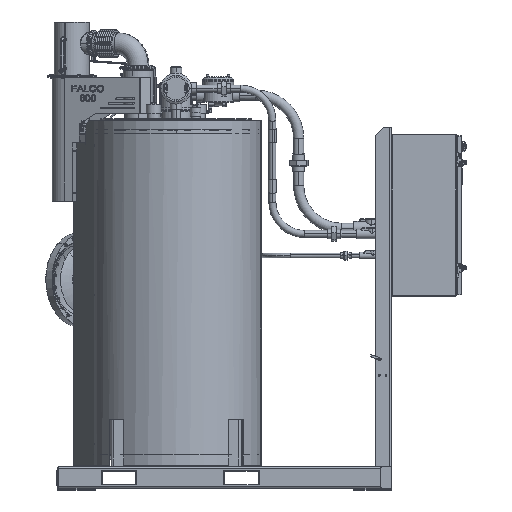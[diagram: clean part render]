
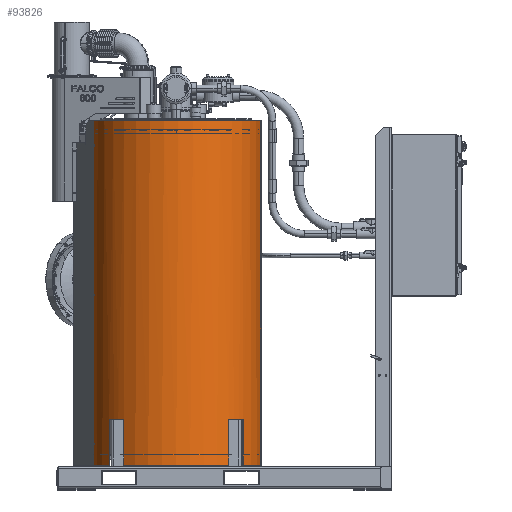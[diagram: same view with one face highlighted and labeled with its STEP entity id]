
A CAD part, top view. The second image highlights one B-rep face of the part: STEP entity #93826.
In plain terms, the highlighted cylindrical face has radius 401.625 mm (diameter 803.25 mm), a partial arc.
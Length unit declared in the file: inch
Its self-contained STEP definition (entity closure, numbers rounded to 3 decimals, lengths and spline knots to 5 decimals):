
#2855 = LINE ( 'NONE', #2858, #38207 ) ;
#2858 = CARTESIAN_POINT ( 'NONE',  ( 15.812, 32.04, 0. ) ) ;
#2869 = DIRECTION ( 'NONE',  ( 0., -1., 0. ) ) ;
#2912 = CARTESIAN_POINT ( 'NONE',  ( 0., -31.96, 0. ) ) ;
#2914 = DIRECTION ( 'NONE',  ( 0., 1., 0. ) ) ;
#2916 = DIRECTION ( 'NONE',  ( -1., 0., 0. ) ) ;
#5569 = AXIS2_PLACEMENT_3D ( 'NONE', #15086, #15074, #15088 ) ;
#15074 = DIRECTION ( 'NONE',  ( 0., -1., 0. ) ) ;
#15076 = CYLINDRICAL_SURFACE ( 'NONE', #5569, 15.812 ) ;
#15078 = FACE_OUTER_BOUND ( 'NONE', #21920, .T. ) ;
#15086 = CARTESIAN_POINT ( 'NONE',  ( 0., 32.04, 0. ) ) ;
#15088 = DIRECTION ( 'NONE',  ( 1., 0., 0. ) ) ;
#20967 = VERTEX_POINT ( 'NONE', #96759 ) ;
#20968 = VERTEX_POINT ( 'NONE', #96756 ) ;
#21128 = VERTEX_POINT ( 'NONE', #96471 ) ;
#21463 = VERTEX_POINT ( 'NONE', #95388 ) ;
#21464 = VERTEX_POINT ( 'NONE', #95386 ) ;
#21516 = VERTEX_POINT ( 'NONE', #95362 ) ;
#21571 = VERTEX_POINT ( 'NONE', #95611 ) ;
#21572 = VERTEX_POINT ( 'NONE', #95627 ) ;
#21575 = VERTEX_POINT ( 'NONE', #95619 ) ;
#21578 = VERTEX_POINT ( 'NONE', #95640 ) ;
#21799 = VERTEX_POINT ( 'NONE', #97936 ) ;
#21809 = VERTEX_POINT ( 'NONE', #97255 ) ;
#21920 = EDGE_LOOP ( 'NONE', ( #57946, #57945, #57944, #57943, #57941, #57940, #57931, #57939, #57938, #57937, #57934, #57935 ) ) ;
#38126 = CIRCLE ( 'NONE', #38195, 15.812 ) ;
#38195 = AXIS2_PLACEMENT_3D ( 'NONE', #2912, #2914, #2916 ) ;
#38207 = VECTOR ( 'NONE', #2869, 39.37008 ) ;
#38243 = CIRCLE ( 'NONE', #38254, 15.812 ) ;
#38252 = VECTOR ( 'NONE', #71309, 39.37008 ) ;
#38254 = AXIS2_PLACEMENT_3D ( 'NONE', #71302, #71304, #71306 ) ;
#38263 = CIRCLE ( 'NONE', #38264, 15.812 ) ;
#38264 = AXIS2_PLACEMENT_3D ( 'NONE', #71398, #71400, #71402 ) ;
#38277 = VECTOR ( 'NONE', #71523, 39.37008 ) ;
#38279 = CIRCLE ( 'NONE', #38281, 15.812 ) ;
#38281 = AXIS2_PLACEMENT_3D ( 'NONE', #71533, #71535, #71537 ) ;
#38283 = AXIS2_PLACEMENT_3D ( 'NONE', #71571, #71573, #71575 ) ;
#38285 = AXIS2_PLACEMENT_3D ( 'NONE', #71552, #71554, #71555 ) ;
#38287 = CIRCLE ( 'NONE', #38285, 15.812 ) ;
#38289 = VECTOR ( 'NONE', #71541, 39.37008 ) ;
#38292 = VECTOR ( 'NONE', #71577, 39.37008 ) ;
#38294 = CIRCLE ( 'NONE', #38283, 15.812 ) ;
#38543 = VECTOR ( 'NONE', #83906, 39.37008 ) ;
#57931 = ORIENTED_EDGE ( 'NONE', *, *, #96791, .T. ) ;
#57934 = ORIENTED_EDGE ( 'NONE', *, *, #96805, .T. ) ;
#57935 = ORIENTED_EDGE ( 'NONE', *, *, #96802, .T. ) ;
#57937 = ORIENTED_EDGE ( 'NONE', *, *, #96794, .T. ) ;
#57938 = ORIENTED_EDGE ( 'NONE', *, *, #96783, .T. ) ;
#57939 = ORIENTED_EDGE ( 'NONE', *, *, #96787, .T. ) ;
#57940 = ORIENTED_EDGE ( 'NONE', *, *, #96732, .T. ) ;
#57941 = ORIENTED_EDGE ( 'NONE', *, *, #96120, .F. ) ;
#57943 = ORIENTED_EDGE ( 'NONE', *, *, #96968, .T. ) ;
#57944 = ORIENTED_EDGE ( 'NONE', *, *, #96695, .T. ) ;
#57945 = ORIENTED_EDGE ( 'NONE', *, *, #96692, .F. ) ;
#57946 = ORIENTED_EDGE ( 'NONE', *, *, #96955, .F. ) ;
#71296 = CARTESIAN_POINT ( 'NONE',  ( -15.40674, 32.04, 3.55693 ) ) ;
#71301 = LINE ( 'NONE', #71296, #38252 ) ;
#71302 = CARTESIAN_POINT ( 'NONE',  ( 0., 32.04, 0. ) ) ;
#71304 = DIRECTION ( 'NONE',  ( 0., 1., 0. ) ) ;
#71306 = DIRECTION ( 'NONE',  ( -1., 0., 0. ) ) ;
#71309 = DIRECTION ( 'NONE',  ( 0., -1., 0. ) ) ;
#71398 = CARTESIAN_POINT ( 'NONE',  ( 0., -23.46, 0. ) ) ;
#71400 = DIRECTION ( 'NONE',  ( 0., 1., 0. ) ) ;
#71402 = DIRECTION ( 'NONE',  ( -1., 0., 0. ) ) ;
#71517 = LINE ( 'NONE', #71521, #38277 ) ;
#71521 = CARTESIAN_POINT ( 'NONE',  ( 9.76319, 32.04, 12.43783 ) ) ;
#71523 = DIRECTION ( 'NONE',  ( 0., 1., 0. ) ) ;
#71526 = CARTESIAN_POINT ( 'NONE',  ( -9.76319, -5.87026, 12.43783 ) ) ;
#71532 = LINE ( 'NONE', #71526, #38289 ) ;
#71533 = CARTESIAN_POINT ( 'NONE',  ( 0., -31.96, 0. ) ) ;
#71535 = DIRECTION ( 'NONE',  ( 0., 1., 0. ) ) ;
#71537 = DIRECTION ( 'NONE',  ( -1., 0., 0. ) ) ;
#71541 = DIRECTION ( 'NONE',  ( 0., -1., 0. ) ) ;
#71552 = CARTESIAN_POINT ( 'NONE',  ( 0., -23.46, 0. ) ) ;
#71554 = DIRECTION ( 'NONE',  ( 0., 1., 0. ) ) ;
#71555 = DIRECTION ( 'NONE',  ( 1., 0., 0. ) ) ;
#71565 = CARTESIAN_POINT ( 'NONE',  ( 12.43783, 32.04, 9.76319 ) ) ;
#71569 = LINE ( 'NONE', #71565, #38292 ) ;
#71571 = CARTESIAN_POINT ( 'NONE',  ( 0., -31.96, 0. ) ) ;
#71573 = DIRECTION ( 'NONE',  ( 0., 1., 0. ) ) ;
#71575 = DIRECTION ( 'NONE',  ( -1., 0., 0. ) ) ;
#71577 = DIRECTION ( 'NONE',  ( 0., -1., 0. ) ) ;
#83851 = LINE ( 'NONE', #83904, #38543 ) ;
#83904 = CARTESIAN_POINT ( 'NONE',  ( -12.43783, -5.87026, 9.76319 ) ) ;
#83906 = DIRECTION ( 'NONE',  ( 0., -1., 0. ) ) ;
#93826 = ADVANCED_FACE ( 'NONE', ( #15078 ), #15076, .T. ) ;
#95362 = CARTESIAN_POINT ( 'NONE',  ( -15.40674, -31.96, 3.55693 ) ) ;
#95386 = CARTESIAN_POINT ( 'NONE',  ( 12.43783, -23.46, 9.76319 ) ) ;
#95388 = CARTESIAN_POINT ( 'NONE',  ( 9.76319, -23.46, 12.43783 ) ) ;
#95611 = CARTESIAN_POINT ( 'NONE',  ( 15.812, -31.96, 0. ) ) ;
#95619 = CARTESIAN_POINT ( 'NONE',  ( 15.812, 32.04, 0. ) ) ;
#95627 = CARTESIAN_POINT ( 'NONE',  ( -12.43783, -23.46, 9.76319 ) ) ;
#95640 = CARTESIAN_POINT ( 'NONE',  ( -15.40674, 32.04, 3.55693 ) ) ;
#96120 = EDGE_CURVE ( 'NONE', #21572, #20968, #83851, .T. ) ;
#96471 = CARTESIAN_POINT ( 'NONE',  ( -9.76319, -31.96, 12.43783 ) ) ;
#96692 = EDGE_CURVE ( 'NONE', #21578, #21575, #38243, .T. ) ;
#96695 = EDGE_CURVE ( 'NONE', #21578, #21516, #71301, .T. ) ;
#96732 = EDGE_CURVE ( 'NONE', #21572, #20967, #38263, .T. ) ;
#96756 = CARTESIAN_POINT ( 'NONE',  ( -12.43783, -31.96, 9.76319 ) ) ;
#96759 = CARTESIAN_POINT ( 'NONE',  ( -9.76319, -23.46, 12.43783 ) ) ;
#96783 = EDGE_CURVE ( 'NONE', #21809, #21463, #71517, .T. ) ;
#96787 = EDGE_CURVE ( 'NONE', #21128, #21809, #38279, .T. ) ;
#96791 = EDGE_CURVE ( 'NONE', #20967, #21128, #71532, .T. ) ;
#96794 = EDGE_CURVE ( 'NONE', #21463, #21464, #38287, .T. ) ;
#96802 = EDGE_CURVE ( 'NONE', #21799, #21571, #38294, .T. ) ;
#96805 = EDGE_CURVE ( 'NONE', #21464, #21799, #71569, .T. ) ;
#96955 = EDGE_CURVE ( 'NONE', #21575, #21571, #2855, .T. ) ;
#96968 = EDGE_CURVE ( 'NONE', #21516, #20968, #38126, .T. ) ;
#97255 = CARTESIAN_POINT ( 'NONE',  ( 9.76319, -31.96, 12.43783 ) ) ;
#97936 = CARTESIAN_POINT ( 'NONE',  ( 12.43783, -31.96, 9.76319 ) ) ;
